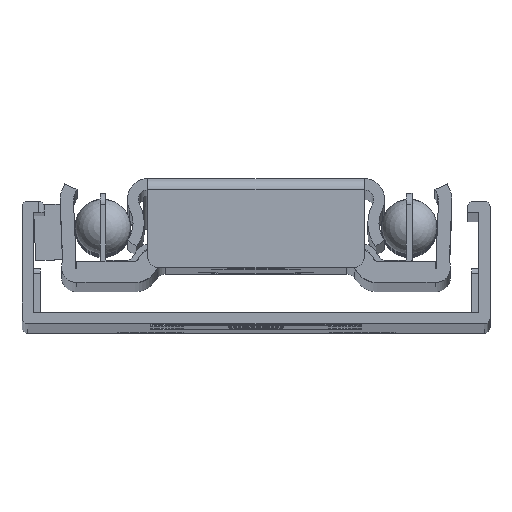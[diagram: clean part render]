
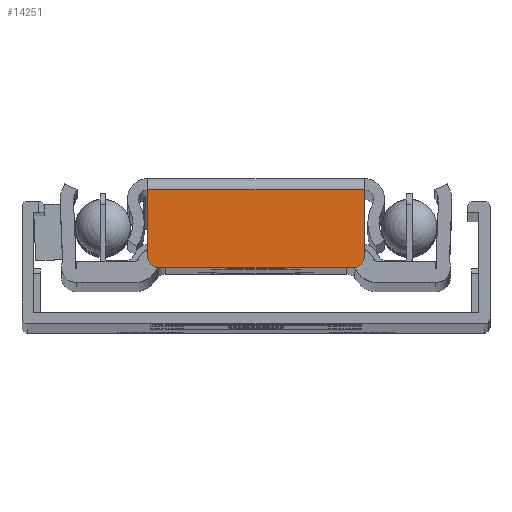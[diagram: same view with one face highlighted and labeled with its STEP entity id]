
A CAD part, top view. The second image highlights one B-rep face of the part: STEP entity #14251.
In plain terms, the highlighted planar face has unit normal (0, 0, 1).
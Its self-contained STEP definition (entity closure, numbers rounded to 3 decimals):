
#681=PLANE('',#15665);
#1392=FACE_OUTER_BOUND('',#2263,.T.);
#2263=EDGE_LOOP('',(#13104,#13105,#13106,#13107,#13108,#13109));
#3650=LINE('',#24153,#5039);
#3651=LINE('',#24156,#5040);
#3652=LINE('',#24160,#5041);
#3653=LINE('',#24163,#5042);
#5039=VECTOR('',#19729,10.);
#5040=VECTOR('',#19732,10.);
#5041=VECTOR('',#19735,10.);
#5042=VECTOR('',#19738,10.);
#5706=CIRCLE('',#15666,1.);
#5707=CIRCLE('',#15667,1.);
#7057=VERTEX_POINT('',#24149);
#7058=VERTEX_POINT('',#24151);
#7059=VERTEX_POINT('',#24155);
#7060=VERTEX_POINT('',#24157);
#7061=VERTEX_POINT('',#24159);
#7062=VERTEX_POINT('',#24161);
#9097=EDGE_CURVE('',#7058,#7057,#3650,.T.);
#9098=EDGE_CURVE('',#7058,#7059,#3651,.T.);
#9099=EDGE_CURVE('',#7060,#7059,#5706,.T.);
#9100=EDGE_CURVE('',#7060,#7061,#3652,.T.);
#9101=EDGE_CURVE('',#7062,#7061,#5707,.T.);
#9102=EDGE_CURVE('',#7057,#7062,#3653,.T.);
#13104=ORIENTED_EDGE('',*,*,#9097,.F.);
#13105=ORIENTED_EDGE('',*,*,#9098,.T.);
#13106=ORIENTED_EDGE('',*,*,#9099,.F.);
#13107=ORIENTED_EDGE('',*,*,#9100,.T.);
#13108=ORIENTED_EDGE('',*,*,#9101,.F.);
#13109=ORIENTED_EDGE('',*,*,#9102,.F.);
#14251=ADVANCED_FACE('',(#1392),#681,.T.);
#15665=AXIS2_PLACEMENT_3D('',#24154,#19730,#19731);
#15666=AXIS2_PLACEMENT_3D('',#24158,#19733,#19734);
#15667=AXIS2_PLACEMENT_3D('',#24162,#19736,#19737);
#19729=DIRECTION('',(-1.,0.,0.));
#19730=DIRECTION('center_axis',(0.,0.,1.));
#19731=DIRECTION('ref_axis',(1.,0.,0.));
#19732=DIRECTION('',(0.,1.,0.));
#19733=DIRECTION('center_axis',(0.,0.,-1.));
#19734=DIRECTION('ref_axis',(0.707,0.707,0.));
#19735=DIRECTION('',(-1.,0.,0.));
#19736=DIRECTION('center_axis',(0.,0.,-1.));
#19737=DIRECTION('ref_axis',(-0.707,0.707,0.));
#19738=DIRECTION('',(0.,1.,0.));
#24149=CARTESIAN_POINT('',(4.892,-4.95,501.));
#24151=CARTESIAN_POINT('',(24.354,-4.95,501.));
#24153=CARTESIAN_POINT('',(19.501,-4.95,501.));
#24154=CARTESIAN_POINT('Origin',(24.354,-5.95,501.));
#24155=CARTESIAN_POINT('',(24.354,1.05,501.));
#24156=CARTESIAN_POINT('',(24.354,-5.95,501.));
#24157=CARTESIAN_POINT('',(23.354,2.05,501.));
#24158=CARTESIAN_POINT('Origin',(23.354,1.05,501.));
#24159=CARTESIAN_POINT('',(5.892,2.05,501.));
#24160=CARTESIAN_POINT('',(24.354,2.05,501.));
#24161=CARTESIAN_POINT('',(4.892,1.05,501.));
#24162=CARTESIAN_POINT('Origin',(5.892,1.05,501.));
#24163=CARTESIAN_POINT('',(4.892,-5.95,501.));
